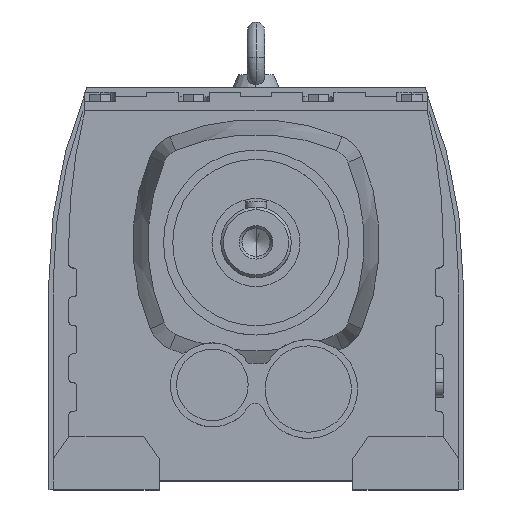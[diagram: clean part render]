
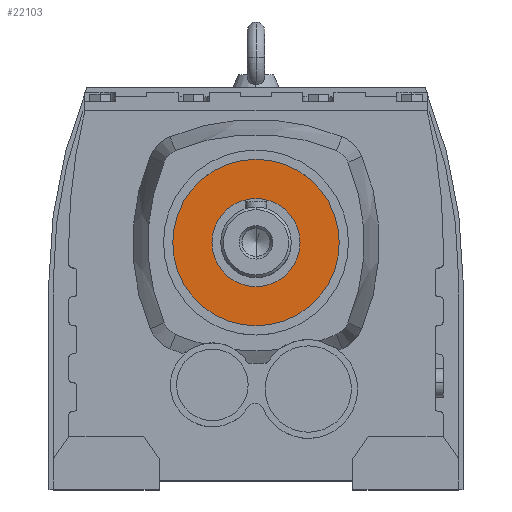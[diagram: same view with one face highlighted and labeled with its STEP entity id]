
A CAD part, top view. The second image highlights one B-rep face of the part: STEP entity #22103.
In plain terms, the highlighted planar face has unit normal (0, 0, 1).
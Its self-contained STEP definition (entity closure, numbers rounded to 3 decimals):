
#20239 = CYLINDRICAL_SURFACE('',#20240,47.25);
#20240 = AXIS2_PLACEMENT_3D('',#20241,#20242,#20243);
#20241 = CARTESIAN_POINT('',(0.,15.9,300.));
#20242 = DIRECTION('',(0.,0.,1.));
#20243 = DIRECTION('',(0.,-1.,0.));
#20269 = CYLINDRICAL_SURFACE('',#20270,47.25);
#20270 = AXIS2_PLACEMENT_3D('',#20271,#20272,#20273);
#20271 = CARTESIAN_POINT('',(0.,15.9,300.));
#20272 = DIRECTION('',(0.,0.,1.));
#20273 = DIRECTION('',(0.,-1.,0.));
#21257 = VERTEX_POINT('',#21258);
#21258 = CARTESIAN_POINT('',(0.,63.15,212.));
#21279 = VERTEX_POINT('',#21280);
#21280 = CARTESIAN_POINT('',(0.,-31.35,212.));
#21299 = EDGE_CURVE('',#21257,#21279,#21300,.T.);
#21300 = SURFACE_CURVE('',#21301,(#21306,#21312),.PCURVE_S1.);
#21301 = CIRCLE('',#21302,47.25);
#21302 = AXIS2_PLACEMENT_3D('',#21303,#21304,#21305);
#21303 = CARTESIAN_POINT('',(0.,15.9,212.));
#21304 = DIRECTION('',(0.,0.,-1.));
#21305 = DIRECTION('',(-1.,0.,0.));
#21306 = PCURVE('',#20239,#21307);
#21307 = DEFINITIONAL_REPRESENTATION('',(#21308),#21311);
#21308 = B_SPLINE_CURVE_WITH_KNOTS('',1,(#21309,#21310),.UNSPECIFIED.,
  .F.,.F.,(2,2),(1.571,4.712),
  .PIECEWISE_BEZIER_KNOTS.);
#21309 = CARTESIAN_POINT('',(3.142,-88.));
#21310 = CARTESIAN_POINT('',(0.,-88.));
#21311 = ( GEOMETRIC_REPRESENTATION_CONTEXT(2) 
PARAMETRIC_REPRESENTATION_CONTEXT() REPRESENTATION_CONTEXT('2D SPACE',''
  ) );
#21312 = PCURVE('',#21313,#21318);
#21313 = PLANE('',#21314);
#21314 = AXIS2_PLACEMENT_3D('',#21315,#21316,#21317);
#21315 = CARTESIAN_POINT('',(-20.382,8.282,212.));
#21316 = DIRECTION('',(0.,0.,-1.));
#21317 = DIRECTION('',(-1.,0.,0.));
#21318 = DEFINITIONAL_REPRESENTATION('',(#21319),#21323);
#21319 = CIRCLE('',#21320,47.25);
#21320 = AXIS2_PLACEMENT_2D('',#21321,#21322);
#21321 = CARTESIAN_POINT('',(-20.382,7.618));
#21322 = DIRECTION('',(1.,0.));
#21323 = ( GEOMETRIC_REPRESENTATION_CONTEXT(2) 
PARAMETRIC_REPRESENTATION_CONTEXT() REPRESENTATION_CONTEXT('2D SPACE',''
  ) );
#21328 = EDGE_CURVE('',#21279,#21257,#21329,.T.);
#21329 = SURFACE_CURVE('',#21330,(#21335,#21341),.PCURVE_S1.);
#21330 = CIRCLE('',#21331,47.25);
#21331 = AXIS2_PLACEMENT_3D('',#21332,#21333,#21334);
#21332 = CARTESIAN_POINT('',(0.,15.9,212.));
#21333 = DIRECTION('',(0.,0.,-1.));
#21334 = DIRECTION('',(-1.,0.,0.));
#21335 = PCURVE('',#20269,#21336);
#21336 = DEFINITIONAL_REPRESENTATION('',(#21337),#21340);
#21337 = B_SPLINE_CURVE_WITH_KNOTS('',1,(#21338,#21339),.UNSPECIFIED.,
  .F.,.F.,(2,2),(4.712,7.854),
  .PIECEWISE_BEZIER_KNOTS.);
#21338 = CARTESIAN_POINT('',(6.283,-88.));
#21339 = CARTESIAN_POINT('',(3.142,-88.));
#21340 = ( GEOMETRIC_REPRESENTATION_CONTEXT(2) 
PARAMETRIC_REPRESENTATION_CONTEXT() REPRESENTATION_CONTEXT('2D SPACE',''
  ) );
#21341 = PCURVE('',#21313,#21342);
#21342 = DEFINITIONAL_REPRESENTATION('',(#21343),#21347);
#21343 = CIRCLE('',#21344,47.25);
#21344 = AXIS2_PLACEMENT_2D('',#21345,#21346);
#21345 = CARTESIAN_POINT('',(-20.382,7.618));
#21346 = DIRECTION('',(1.,0.));
#21347 = ( GEOMETRIC_REPRESENTATION_CONTEXT(2) 
PARAMETRIC_REPRESENTATION_CONTEXT() REPRESENTATION_CONTEXT('2D SPACE',''
  ) );
#22103 = ADVANCED_FACE('',(#22104,#22108),#21313,.F.);
#22104 = FACE_BOUND('',#22105,.T.);
#22105 = EDGE_LOOP('',(#22106,#22107));
#22106 = ORIENTED_EDGE('',*,*,#21328,.F.);
#22107 = ORIENTED_EDGE('',*,*,#21299,.F.);
#22108 = FACE_BOUND('',#22109,.T.);
#22109 = EDGE_LOOP('',(#22110,#22144));
#22110 = ORIENTED_EDGE('',*,*,#22111,.F.);
#22111 = EDGE_CURVE('',#22112,#22114,#22116,.T.);
#22112 = VERTEX_POINT('',#22113);
#22113 = CARTESIAN_POINT('',(0.,-9.1,212.));
#22114 = VERTEX_POINT('',#22115);
#22115 = CARTESIAN_POINT('',(0.,40.9,212.));
#22116 = SURFACE_CURVE('',#22117,(#22122,#22133),.PCURVE_S1.);
#22117 = CIRCLE('',#22118,25.);
#22118 = AXIS2_PLACEMENT_3D('',#22119,#22120,#22121);
#22119 = CARTESIAN_POINT('',(0.,15.9,212.));
#22120 = DIRECTION('',(0.,0.,1.));
#22121 = DIRECTION('',(-1.,0.,0.));
#22122 = PCURVE('',#21313,#22123);
#22123 = DEFINITIONAL_REPRESENTATION('',(#22124),#22132);
#22124 = ( BOUNDED_CURVE() B_SPLINE_CURVE(2,(#22125,#22126,#22127,#22128
    ,#22129,#22130,#22131),.UNSPECIFIED.,.F.,.F.) 
B_SPLINE_CURVE_WITH_KNOTS((1,2,2,2,2,1),(-2.094,0.,
    2.094,4.189,6.283,8.378),
.UNSPECIFIED.) CURVE() GEOMETRIC_REPRESENTATION_ITEM() 
RATIONAL_B_SPLINE_CURVE((1.,0.5,1.,0.5,1.,0.5,1.)) REPRESENTATION_ITEM(
  '') );
#22125 = CARTESIAN_POINT('',(4.618,7.618));
#22126 = CARTESIAN_POINT('',(4.618,-35.683));
#22127 = CARTESIAN_POINT('',(-32.882,-14.033));
#22128 = CARTESIAN_POINT('',(-70.382,7.618));
#22129 = CARTESIAN_POINT('',(-32.882,29.269));
#22130 = CARTESIAN_POINT('',(4.618,50.919));
#22131 = CARTESIAN_POINT('',(4.618,7.618));
#22132 = ( GEOMETRIC_REPRESENTATION_CONTEXT(2) 
PARAMETRIC_REPRESENTATION_CONTEXT() REPRESENTATION_CONTEXT('2D SPACE',''
  ) );
#22133 = PCURVE('',#22134,#22139);
#22134 = CYLINDRICAL_SURFACE('',#22135,25.);
#22135 = AXIS2_PLACEMENT_3D('',#22136,#22137,#22138);
#22136 = CARTESIAN_POINT('',(0.,15.9,300.));
#22137 = DIRECTION('',(0.,0.,1.));
#22138 = DIRECTION('',(0.,-1.,0.));
#22139 = DEFINITIONAL_REPRESENTATION('',(#22140),#22143);
#22140 = B_SPLINE_CURVE_WITH_KNOTS('',1,(#22141,#22142),.UNSPECIFIED.,
  .F.,.F.,(2,2),(1.571,4.712),
  .PIECEWISE_BEZIER_KNOTS.);
#22141 = CARTESIAN_POINT('',(0.,-88.));
#22142 = CARTESIAN_POINT('',(3.142,-88.));
#22143 = ( GEOMETRIC_REPRESENTATION_CONTEXT(2) 
PARAMETRIC_REPRESENTATION_CONTEXT() REPRESENTATION_CONTEXT('2D SPACE',''
  ) );
#22144 = ORIENTED_EDGE('',*,*,#22145,.F.);
#22145 = EDGE_CURVE('',#22114,#22112,#22146,.T.);
#22146 = SURFACE_CURVE('',#22147,(#22152,#22163),.PCURVE_S1.);
#22147 = CIRCLE('',#22148,25.);
#22148 = AXIS2_PLACEMENT_3D('',#22149,#22150,#22151);
#22149 = CARTESIAN_POINT('',(0.,15.9,212.));
#22150 = DIRECTION('',(0.,0.,1.));
#22151 = DIRECTION('',(-1.,0.,0.));
#22152 = PCURVE('',#21313,#22153);
#22153 = DEFINITIONAL_REPRESENTATION('',(#22154),#22162);
#22154 = ( BOUNDED_CURVE() B_SPLINE_CURVE(2,(#22155,#22156,#22157,#22158
    ,#22159,#22160,#22161),.UNSPECIFIED.,.F.,.F.) 
B_SPLINE_CURVE_WITH_KNOTS((1,2,2,2,2,1),(-2.094,0.,
    2.094,4.189,6.283,8.378),
.UNSPECIFIED.) CURVE() GEOMETRIC_REPRESENTATION_ITEM() 
RATIONAL_B_SPLINE_CURVE((1.,0.5,1.,0.5,1.,0.5,1.)) REPRESENTATION_ITEM(
  '') );
#22155 = CARTESIAN_POINT('',(4.618,7.618));
#22156 = CARTESIAN_POINT('',(4.618,-35.683));
#22157 = CARTESIAN_POINT('',(-32.882,-14.033));
#22158 = CARTESIAN_POINT('',(-70.382,7.618));
#22159 = CARTESIAN_POINT('',(-32.882,29.269));
#22160 = CARTESIAN_POINT('',(4.618,50.919));
#22161 = CARTESIAN_POINT('',(4.618,7.618));
#22162 = ( GEOMETRIC_REPRESENTATION_CONTEXT(2) 
PARAMETRIC_REPRESENTATION_CONTEXT() REPRESENTATION_CONTEXT('2D SPACE',''
  ) );
#22163 = PCURVE('',#22164,#22169);
#22164 = CYLINDRICAL_SURFACE('',#22165,25.);
#22165 = AXIS2_PLACEMENT_3D('',#22166,#22167,#22168);
#22166 = CARTESIAN_POINT('',(0.,15.9,300.));
#22167 = DIRECTION('',(0.,0.,1.));
#22168 = DIRECTION('',(0.,-1.,0.));
#22169 = DEFINITIONAL_REPRESENTATION('',(#22170),#22173);
#22170 = B_SPLINE_CURVE_WITH_KNOTS('',1,(#22171,#22172),.UNSPECIFIED.,
  .F.,.F.,(2,2),(4.712,7.854),
  .PIECEWISE_BEZIER_KNOTS.);
#22171 = CARTESIAN_POINT('',(3.142,-88.));
#22172 = CARTESIAN_POINT('',(6.283,-88.));
#22173 = ( GEOMETRIC_REPRESENTATION_CONTEXT(2) 
PARAMETRIC_REPRESENTATION_CONTEXT() REPRESENTATION_CONTEXT('2D SPACE',''
  ) );
